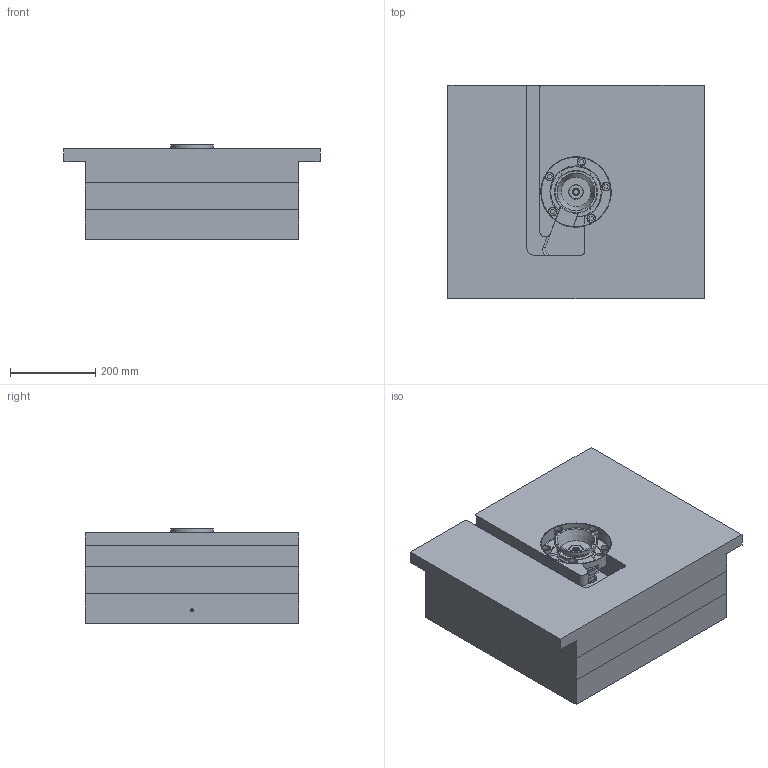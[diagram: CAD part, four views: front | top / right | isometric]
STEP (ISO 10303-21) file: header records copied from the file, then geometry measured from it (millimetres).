
FILE_DESCRIPTION( ( 'STEP AP214' ), '1' );
FILE_NAME( 'S:/PROIECTE_YUDO_2009_dupa_1.07.2009/PROIECTE YUDO 3D 01.07.2009/SAS/YUEU09-SAS42LVF170_4/YUEU09-SAS42LVF170.step', '2009-08-24T11:57:34', ( ' ' ), ( ' ' ), 'XStep 1.0', ' ', ' ' );
FILE_SCHEMA( ( 'automotive_design' ) );
Length unit declared in the file: millimetre
Products named in the file (28): 1; 2; 3; 4; 5; 6; 7; 8; 9; 10; 11; 12; 13; 14; 15; 16; 17; 18; 19; 20; 21; 22; 23; 24; 25; 26; 27; 28
Bounding box: 600 x 500 x 222.5 mm (x, y, z)
Volume: 53523988.5 mm3; surface area: 2361671.9 mm2
Topology: 28 solids, 28 shells, 665 faces, 1447 edges, 949 vertices
Faces by surface type: plane 357, cylinder 209, cone 78, torus 18, bspline 3
Full cylindrical faces by diameter (mm): 2.5 x2, 3.6 x2, 4 x1, 5.34 x8, 5.35 x16, 6 x18, 7 x14, 10 x10, 11.34 x5, 11.35 x10, 12 x5, 12.5 x1, 13 x5, 14 x5, 19 x5, 20 x5, 25 x2, 28 x1, 33 x2, 36 x1, 39 x1, 42 x4, 43.5 x1, 48 x3, 51.4 x1, 57 x1, 58 x2, 60.8 x1, 67 x3, 76 x2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
Entity records: 22660 total; most frequent: CARTESIAN_POINT 3239, DIRECTION 2997, ORIENTED_EDGE 2288, AXIS2_PLACEMENT_3D 1214, EDGE_CURVE 1144, EDGE_LOOP 1037, VERTEX_POINT 890, FACE_OUTER_BOUND 832
